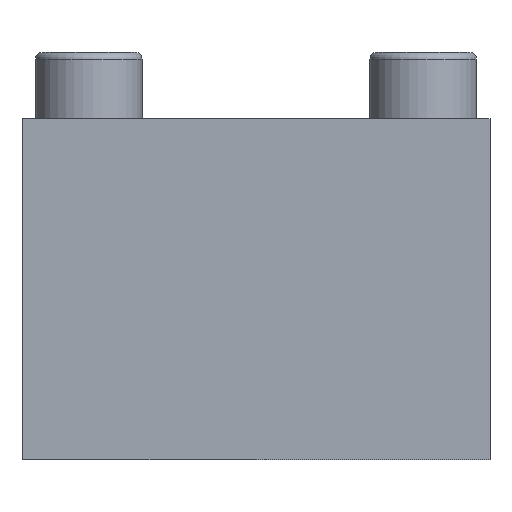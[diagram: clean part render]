
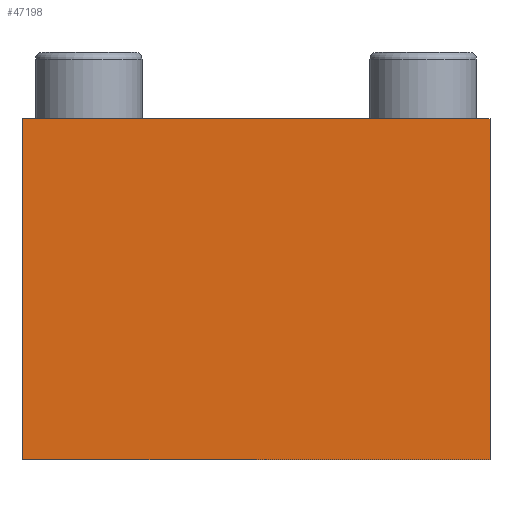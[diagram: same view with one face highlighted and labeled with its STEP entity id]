
A CAD part, front view. The second image highlights one B-rep face of the part: STEP entity #47198.
In plain terms, the highlighted planar face has unit normal (0, -1, 0).
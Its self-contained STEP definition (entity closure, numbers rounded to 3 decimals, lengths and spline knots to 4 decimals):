
#5028=FACE_OUTER_BOUND('',#7554,.T.);
#7554=EDGE_LOOP('',(#32013,#32014,#32015,#32016));
#10397=LINE('',#60885,#15553);
#10401=LINE('',#60894,#15557);
#10402=LINE('',#60895,#15558);
#10403=LINE('',#60896,#15559);
#15553=VECTOR('',#51737,5.1);
#15557=VECTOR('',#51743,5.1);
#15558=VECTOR('',#51744,7.);
#15559=VECTOR('',#51745,7.);
#20817=VERTEX_POINT('',#60883);
#20818=VERTEX_POINT('',#60884);
#20821=VERTEX_POINT('',#60892);
#20822=VERTEX_POINT('',#60893);
#25309=EDGE_CURVE('',#20817,#20818,#10397,.T.);
#25313=EDGE_CURVE('',#20821,#20822,#10401,.T.);
#25314=EDGE_CURVE('',#20817,#20821,#10402,.T.);
#25315=EDGE_CURVE('',#20822,#20818,#10403,.T.);
#32013=ORIENTED_EDGE('',*,*,#25313,.F.);
#32014=ORIENTED_EDGE('',*,*,#25314,.F.);
#32015=ORIENTED_EDGE('',*,*,#25309,.T.);
#32016=ORIENTED_EDGE('',*,*,#25315,.F.);
#45404=PLANE('',#49730);
#47198=ADVANCED_FACE('',(#5028),#45404,.T.);
#49730=AXIS2_PLACEMENT_3D('',#60891,#51741,#51742);
#51737=DIRECTION('',(0.,0.,-1.));
#51741=DIRECTION('center_axis',(0.,-1.,0.));
#51742=DIRECTION('ref_axis',(-1.,0.,0.));
#51743=DIRECTION('',(0.,0.,-1.));
#51744=DIRECTION('',(1.,0.,0.));
#51745=DIRECTION('',(-1.,0.,0.));
#60883=CARTESIAN_POINT('',(-3.5,-15.5,4.1));
#60884=CARTESIAN_POINT('',(-3.5,-15.5,-1.));
#60885=CARTESIAN_POINT('',(-3.5,-15.5,0.));
#60891=CARTESIAN_POINT('Origin',(3.5,-15.5,3.1));
#60892=CARTESIAN_POINT('',(3.5,-15.5,4.1));
#60893=CARTESIAN_POINT('',(3.5,-15.5,-1.));
#60894=CARTESIAN_POINT('',(3.5,-15.5,0.));
#60895=CARTESIAN_POINT('',(3.5,-15.5,4.1));
#60896=CARTESIAN_POINT('',(3.5,-15.5,-1.));
